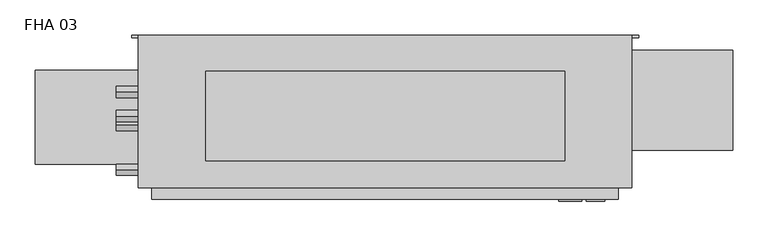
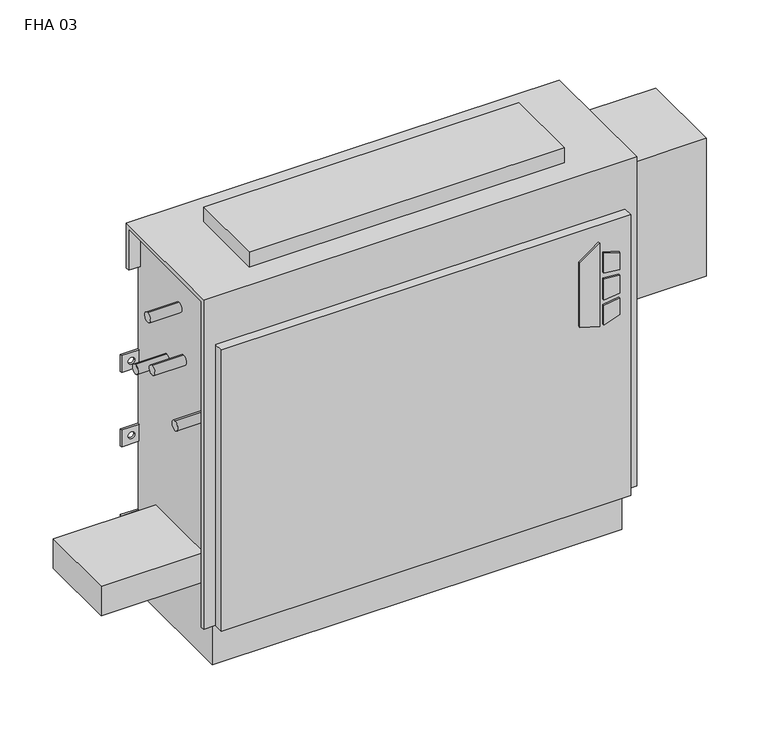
"""IFC4 building model written with IfcOpenShell, lengths in millimetres: proxy geometry, Vertical_Fan_Coil_Unit_-_FHA_-_IEC_-_4-Pipe_TS-FR_LH_2022 : FHA 03."""

from ifc_helpers import new_model, si_unit, point, frame, frame_2d, origin, place, context, project, spatial, polyline, circle_curve, trimmed, segment, composite_curve, outline, extrude, source, transform, mapped, element, save
from ifc_brep_helpers import plane_surface, revolved_surface, advanced_brep


def fha_03_e5284e9b(model_context):
    return source(origin(), model_context, "Body", "SolidModel", [
        extrude(outline(polyline([(391.6086829, 398.5368862), (381.6606126, 430.7102728), (523.831537, 430.7102728), (500.8095309, 398.5368862), (391.6086829, 398.5368862)])), frame((0.0, 9.525, 0.0), z_axis=(0.0, 1.0, 0.0), x_axis=(0.0, 0.0, 1.0)), (0.0, 0.0, 1.0), 3.175),
        extrude(outline(polyline([(470.6079683, 437.4686058), (467.4055757, 463.55), (496.6344168, 463.55), (504.6988318, 437.4686058), (470.6079683, 437.4686058)])), frame((0.0, 9.525, 0.0), z_axis=(0.0, 1.0, 0.0), x_axis=(0.0, 0.0, 1.0)), (0.0, 0.0, 1.0), 3.175),
        extrude(outline(polyline([(418.7444414, 463.55), (415.0789404, 437.4686058), (381.6606126, 437.4686058), (390.2948498, 463.55), (418.7444414, 463.55)])), frame((0.0, 9.525, 0.0), z_axis=(0.0, 1.0, 0.0), x_axis=(0.0, 0.0, 1.0)), (0.0, 0.0, 1.0), 3.175),
        extrude(outline(polyline([(458.0596028, 463.55), (460.3414292, 437.4686058), (424.4038806, 437.4686058), (427.1451456, 463.55), (458.0596028, 463.55)])), frame((0.0, 9.525, 0.0), z_axis=(0.0, 1.0, 0.0), x_axis=(0.0, 0.0, 1.0)), (0.0, 0.0, 1.0), 3.175),
        extrude(outline(composite_curve([segment(trimmed(circle_curve(frame_2d((-241.3, 128.5875)), 9.525), [point((-250.825, 128.5875))], [point((-231.775, 128.5875))], False, "CARTESIAN"), True, "CONTINUOUS"), segment(trimmed(circle_curve(frame_2d((-241.3, 128.5875)), 9.525), [point((-231.775, 128.5875))], [point((-250.825, 128.5875))], False, "CARTESIAN"), True, "CONTINUOUS")], self_intersect=False)), frame((0.0, 0.0, 101.6), z_axis=(0.0, 0.0, 1.0), x_axis=(1.0, 0.0, 0.0)), (0.0, 0.0, 1.0), 25.4),
        extrude(outline(polyline([(-342.9, 61.9125), (-342.9, 195.2625), (-177.8, 195.2625), (-177.8, 61.9125), (-342.9, 61.9125)])), frame((0.0, 0.0, 127.0), z_axis=(0.0, 0.0, 1.0), x_axis=(1.0, 0.0, 0.0)), (0.0, 0.0, 1.0), 50.8),
        extrude(outline(polyline([(406.4, 193.675), (406.4, 66.675), (-101.6, 66.675), (-101.6, 193.675), (406.4, 193.675)])), frame((0.0, 0.0, 635.0), z_axis=(0.0, 0.0, 1.0), x_axis=(1.0, 0.0, 0.0)), (0.0, 0.0, 1.0), 25.4),
        extrude(outline(composite_curve([segment(trimmed(circle_curve(frame_2d((117.475, 472.44)), 7.9375), [point((117.475, 480.3775))], [point((117.475, 464.5025))], False, "CARTESIAN"), True, "CONTINUOUS"), segment(trimmed(circle_curve(frame_2d((117.475, 472.44)), 7.9375), [point((117.475, 464.5025))], [point((117.475, 480.3775))], False, "CARTESIAN"), True, "CONTINUOUS")], self_intersect=False)), frame((-228.6, 0.0, 0.0), z_axis=(1.0, 0.0, 0.0), x_axis=(0.0, 1.0, 0.0)), (0.0, 0.0, 1.0), 50.8),
        extrude(outline(composite_curve([segment(trimmed(circle_curve(frame_2d((164.211, 445.897)), 7.9375), [point((164.211, 453.8345))], [point((164.211, 437.9595))], False, "CARTESIAN"), True, "CONTINUOUS"), segment(trimmed(circle_curve(frame_2d((164.211, 445.897)), 7.9375), [point((164.211, 437.9595))], [point((164.211, 453.8345))], False, "CARTESIAN"), True, "CONTINUOUS")], self_intersect=False)), frame((-228.6, 0.0, 0.0), z_axis=(1.0, 0.0, 0.0), x_axis=(0.0, 1.0, 0.0)), (0.0, 0.0, 1.0), 50.8),
        extrude(outline(composite_curve([segment(trimmed(circle_curve(frame_2d((130.175, 554.99)), 7.9502), [point((130.175, 562.9402))], [point((130.175, 547.0398))], False, "CARTESIAN"), True, "CONTINUOUS"), segment(trimmed(circle_curve(frame_2d((130.175, 554.99)), 7.9502), [point((130.175, 547.0398))], [point((130.175, 562.9402))], False, "CARTESIAN"), True, "CONTINUOUS")], self_intersect=False)), frame((-228.6, 0.0, 0.0), z_axis=(1.0, 0.0, 0.0), x_axis=(0.0, 1.0, 0.0)), (0.0, 0.0, 1.0), 50.8),
        extrude(outline(composite_curve([segment(trimmed(circle_curve(frame_2d((53.975, 416.56)), 7.9502), [point((53.975, 424.5102))], [point((53.975, 408.6098))], False, "CARTESIAN"), True, "CONTINUOUS"), segment(trimmed(circle_curve(frame_2d((53.975, 416.56)), 7.9502), [point((53.975, 408.6098))], [point((53.975, 424.5102))], False, "CARTESIAN"), True, "CONTINUOUS")], self_intersect=False)), frame((-228.6, 0.0, 0.0), z_axis=(1.0, 0.0, 0.0), x_axis=(0.0, 1.0, 0.0)), (0.0, 0.0, 1.0), 50.8),
        extrude(outline(polyline([(644.525, 223.266), (644.525, 81.534), (482.6, 81.534), (482.6, 223.266), (644.525, 223.266)])), frame((0.0, 0.0, 349.25), z_axis=(0.0, 0.0, 1.0), x_axis=(1.0, 0.0, 0.0)), (0.0, 0.0, 1.0), 234.95),
        advanced_brep(
        [(501.65, 244.475, 635.0), (-196.85, 244.475, 635.0), (-196.85, 28.575, 635.0), (501.65, 28.575, 635.0), (-177.8, 244.475, 0.0), (482.6, 244.475, 0.0), (482.6, 38.1, 0.0), (-177.8, 38.1, 0.0), (501.65, 244.475, 558.8), (482.6, 244.475, 558.8), (482.6, 244.475, 414.3375), (511.175, 244.475, 414.3375), (511.175, 244.475, 385.7625), (482.6, 244.475, 385.7625), (482.6, 244.475, 287.3375), (511.175, 244.475, 287.3375), (511.175, 244.475, 258.7625), (482.6, 244.475, 258.7625), (482.6, 244.475, 141.2875), (511.175, 244.475, 141.2875), (511.175, 244.475, 112.7125), (482.6, 244.475, 112.7125), (-177.8, 244.475, 112.7125), (-206.375, 244.475, 112.7125), (-206.375, 244.475, 141.2875), (-177.8, 244.475, 141.2875), (-177.8, 244.475, 258.7625), (-206.375, 244.475, 258.7625), (-206.375, 244.475, 287.3375), (-177.8, 244.475, 287.3375), (-177.8, 244.475, 385.7625), (-206.375, 244.475, 385.7625), (-206.375, 244.475, 414.3375), (-177.8, 244.475, 414.3375), (-177.8, 244.475, 558.8), (-196.85, 244.475, 558.8), (500.8626, 244.475, 127.0), (489.7374, 244.475, 127.0), (-184.9374, 244.475, 127.0), (-196.0626, 244.475, 127.0), (500.8626, 244.475, 273.05), (489.7374, 244.475, 273.05), (-184.9374, 244.475, 273.05), (-196.0626, 244.475, 273.05), (500.8626, 244.475, 400.05), (489.7374, 244.475, 400.05), (-184.9374, 244.475, 400.05), (-196.0626, 244.475, 400.05), (-196.85, 238.125, 558.8), (-196.85, 238.125, 628.65), (-196.85, 34.925, 628.65), (-196.85, 34.925, 73.025), (-196.85, 28.575, 73.025), (482.6, 12.7, 552.45), (-177.8, 12.7, 552.45), (-177.8, 12.7, 73.025), (482.6, 12.7, 73.025), (501.65, 28.575, 73.025), (501.65, 34.925, 73.025), (501.65, 34.925, 628.65), (501.65, 238.125, 628.65), (501.65, 238.125, 558.8), (-177.8, 28.575, 73.025), (-177.8, 28.575, 552.45), (482.6, 28.575, 552.45), (482.6, 28.575, 73.025), (-177.8, 34.925, 73.025), (-177.8, 38.1, 73.025), (482.6, 38.1, 73.025), (482.6, 34.925, 73.025), (482.6, 241.3, 112.7125), (482.6, 241.3, 141.2875), (482.6, 241.3, 258.7625), (482.6, 241.3, 287.3375), (482.6, 241.3, 385.7625), (482.6, 241.3, 414.3375), (482.6, 238.125, 558.8), (482.6, 238.125, 628.65), (482.6, 34.925, 628.65), (-177.8, 34.925, 628.65), (-177.8, 238.125, 628.65), (-177.8, 238.125, 558.8), (-177.8, 241.3, 414.3375), (-177.8, 241.3, 385.7625), (-177.8, 241.3, 287.3375), (-177.8, 241.3, 258.7625), (-177.8, 241.3, 141.2875), (-177.8, 241.3, 112.7125), (511.175, 241.3, 112.7125), (511.175, 241.3, 141.2875), (489.7374, 241.3, 127.0), (500.8626, 241.3, 127.0), (511.175, 241.3, 258.7625), (511.175, 241.3, 287.3375), (489.7374, 241.3, 273.05), (500.8626, 241.3, 273.05), (511.175, 241.3, 385.7625), (511.175, 241.3, 414.3375), (489.7374, 241.3, 400.05), (500.8626, 241.3, 400.05), (-206.375, 241.3, 141.2875), (-206.375, 241.3, 112.7125), (-196.0626, 241.3, 127.0), (-184.9374, 241.3, 127.0), (-206.375, 241.3, 287.3375), (-206.375, 241.3, 258.7625), (-196.0626, 241.3, 273.05), (-184.9374, 241.3, 273.05), (-206.375, 241.3, 414.3375), (-206.375, 241.3, 385.7625), (-196.0626, 241.3, 400.05), (-184.9374, 241.3, 400.05)],
        [
            (0, 1),
            (1, 2),
            (2, 3),
            (3, 0),
            (4, 5),
            (5, 6),
            (6, 7),
            (7, 4),
            (0, 8),
            (8, 9),
            (9, 10),
            (10, 11),
            (11, 12),
            (12, 13),
            (13, 14),
            (14, 15),
            (15, 16),
            (16, 17),
            (17, 18),
            (18, 19),
            (19, 20),
            (20, 21),
            (21, 5),
            (4, 22),
            (22, 23),
            (23, 24),
            (24, 25),
            (25, 26),
            (26, 27),
            (27, 28),
            (28, 29),
            (29, 30),
            (30, 31),
            (31, 32),
            (32, 33),
            (33, 34),
            (34, 35),
            (35, 1),
            (36, 37, circle_curve(frame((495.3, 244.475, 127.0), z_axis=(0.0, -1.0, 0.0), x_axis=(-1.0, 0.0, 0.0)), 5.5626)),
            (37, 36, circle_curve(frame((495.3, 244.475, 127.0), z_axis=(0.0, -1.0, 0.0), x_axis=(-1.0, 0.0, 0.0)), 5.5626)),
            (38, 39, circle_curve(frame((-190.5, 244.475, 127.0), z_axis=(0.0, -1.0, 0.0), x_axis=(-1.0, 0.0, 0.0)), 5.5626)),
            (39, 38, circle_curve(frame((-190.5, 244.475, 127.0), z_axis=(0.0, -1.0, 0.0), x_axis=(-1.0, 0.0, 0.0)), 5.5626)),
            (40, 41, circle_curve(frame((495.3, 244.475, 273.05), z_axis=(0.0, -1.0, 0.0), x_axis=(-1.0, 0.0, 0.0)), 5.5626)),
            (41, 40, circle_curve(frame((495.3, 244.475, 273.05), z_axis=(0.0, -1.0, 0.0), x_axis=(-1.0, 0.0, 0.0)), 5.5626)),
            (42, 43, circle_curve(frame((-190.5, 244.475, 273.05), z_axis=(0.0, -1.0, 0.0), x_axis=(-1.0, 0.0, 0.0)), 5.5626)),
            (43, 42, circle_curve(frame((-190.5, 244.475, 273.05), z_axis=(0.0, -1.0, 0.0), x_axis=(-1.0, 0.0, 0.0)), 5.5626)),
            (44, 45, circle_curve(frame((495.3, 244.475, 400.05), z_axis=(0.0, -1.0, 0.0), x_axis=(-1.0, 0.0, 0.0)), 5.5626)),
            (45, 44, circle_curve(frame((495.3, 244.475, 400.05), z_axis=(0.0, -1.0, 0.0), x_axis=(-1.0, 0.0, 0.0)), 5.5626)),
            (46, 47, circle_curve(frame((-190.5, 244.475, 400.05), z_axis=(0.0, -1.0, 0.0), x_axis=(-1.0, 0.0, 0.0)), 5.5626)),
            (47, 46, circle_curve(frame((-190.5, 244.475, 400.05), z_axis=(0.0, -1.0, 0.0), x_axis=(-1.0, 0.0, 0.0)), 5.5626)),
            (35, 48),
            (48, 49),
            (49, 50),
            (50, 51),
            (51, 52),
            (52, 2),
            (53, 54),
            (54, 55),
            (55, 56),
            (56, 53),
            (3, 57),
            (57, 58),
            (58, 59),
            (59, 60),
            (60, 61),
            (61, 8),
            (52, 62),
            (62, 63),
            (63, 64),
            (64, 65),
            (65, 57),
            (53, 64),
            (63, 54),
            (55, 62),
            (51, 66),
            (66, 67),
            (67, 68),
            (68, 69),
            (69, 58),
            (65, 56),
            (6, 68),
            (67, 7),
            (21, 70),
            (70, 71),
            (71, 18),
            (17, 72),
            (72, 73),
            (73, 14),
            (13, 74),
            (74, 75),
            (75, 10),
            (9, 76),
            (76, 77),
            (77, 78),
            (78, 69),
            (66, 79),
            (79, 80),
            (80, 81),
            (81, 34),
            (33, 82),
            (82, 83),
            (83, 30),
            (29, 84),
            (84, 85),
            (85, 26),
            (25, 86),
            (86, 87),
            (87, 22),
            (76, 61),
            (60, 77),
            (78, 59),
            (50, 79),
            (81, 48),
            (80, 49),
            (70, 88),
            (88, 89),
            (89, 71),
            (90, 91, circle_curve(frame((495.3, 241.3, 127.0), z_axis=(0.0, 1.0, 0.0), x_axis=(-1.0, 0.0, 0.0)), 5.5626)),
            (91, 90, circle_curve(frame((495.3, 241.3, 127.0), z_axis=(0.0, 1.0, 0.0), x_axis=(-1.0, 0.0, 0.0)), 5.5626)),
            (92, 93),
            (93, 73),
            (72, 92),
            (94, 95, circle_curve(frame((495.3, 241.3, 273.05), z_axis=(0.0, 1.0, 0.0), x_axis=(-1.0, 0.0, 0.0)), 5.5626)),
            (95, 94, circle_curve(frame((495.3, 241.3, 273.05), z_axis=(0.0, 1.0, 0.0), x_axis=(-1.0, 0.0, 0.0)), 5.5626)),
            (96, 97),
            (97, 75),
            (74, 96),
            (98, 99, circle_curve(frame((495.3, 241.3, 400.05), z_axis=(0.0, 1.0, 0.0), x_axis=(-1.0, 0.0, 0.0)), 5.5626)),
            (99, 98, circle_curve(frame((495.3, 241.3, 400.05), z_axis=(0.0, 1.0, 0.0), x_axis=(-1.0, 0.0, 0.0)), 5.5626)),
            (100, 101),
            (101, 87),
            (86, 100),
            (102, 103, circle_curve(frame((-190.5, 241.3, 127.0), z_axis=(0.0, 1.0, 0.0), x_axis=(-1.0, 0.0, 0.0)), 5.5626)),
            (103, 102, circle_curve(frame((-190.5, 241.3, 127.0), z_axis=(0.0, 1.0, 0.0), x_axis=(-1.0, 0.0, 0.0)), 5.5626)),
            (84, 104),
            (104, 105),
            (105, 85),
            (106, 107, circle_curve(frame((-190.5, 241.3, 273.05), z_axis=(0.0, 1.0, 0.0), x_axis=(-1.0, 0.0, 0.0)), 5.5626)),
            (107, 106, circle_curve(frame((-190.5, 241.3, 273.05), z_axis=(0.0, 1.0, 0.0), x_axis=(-1.0, 0.0, 0.0)), 5.5626)),
            (108, 109),
            (109, 83),
            (82, 108),
            (110, 111, circle_curve(frame((-190.5, 241.3, 400.05), z_axis=(0.0, 1.0, 0.0), x_axis=(-1.0, 0.0, 0.0)), 5.5626)),
            (111, 110, circle_curve(frame((-190.5, 241.3, 400.05), z_axis=(0.0, 1.0, 0.0), x_axis=(-1.0, 0.0, 0.0)), 5.5626)),
            (89, 19),
            (88, 20),
            (16, 92),
            (93, 15),
            (12, 96),
            (97, 11),
            (24, 100),
            (101, 23),
            (105, 27),
            (104, 28),
            (32, 108),
            (109, 31),
            (90, 37),
            (36, 91),
            (102, 39),
            (38, 103),
            (94, 41),
            (40, 95),
            (106, 43),
            (42, 107),
            (98, 45),
            (44, 99),
            (110, 47),
            (46, 111),
        ],
        [
            plane_surface(frame((-196.85, 244.475, 635.0), z_axis=(0.0, 0.0, 1.0), x_axis=(-1.0, 0.0, 0.0))),
            plane_surface(frame((-196.85, 244.475, 0.0), z_axis=(0.0, 0.0, -1.0), x_axis=(1.0, 0.0, 0.0))),
            plane_surface(frame((501.65, 244.475, 635.0), z_axis=(0.0, 1.0, 0.0), x_axis=(0.0, 0.0, -1.0))),
            plane_surface(frame((-196.85, 244.475, 635.0), z_axis=(-1.0, 0.0, 0.0), x_axis=(0.0, 0.0, -1.0))),
            plane_surface(frame((-196.85, 12.7, 635.0), z_axis=(0.0, -1.0, 0.0), x_axis=(0.0, 0.0, -1.0))),
            plane_surface(frame((501.65, 12.7, 635.0), z_axis=(1.0, 0.0, 0.0), x_axis=(0.0, 0.0, -1.0))),
            plane_surface(frame((-247.65, 28.575, 635.0), z_axis=(0.0, -1.0, 0.0), x_axis=(1.0, 0.0, 0.0))),
            plane_surface(frame((-247.65, 28.575, 552.45), z_axis=(0.0, 0.0, 1.0), x_axis=(1.0, 0.0, 0.0))),
            plane_surface(frame((-196.85, 12.7, 73.025), z_axis=(0.0, 0.0, -1.0), x_axis=(1.0, 0.0, 0.0))),
            plane_surface(frame((-196.85, 38.1, 73.025), z_axis=(0.0, -1.0, 0.0), x_axis=(1.0, 0.0, 0.0))),
            plane_surface(frame((482.6, 28.575, 73.025), z_axis=(1.0, 0.0, 0.0), x_axis=(0.0, -1.0, 0.0))),
            plane_surface(frame((-177.8, 28.575, 552.45), z_axis=(-1.0, 0.0, 0.0), x_axis=(0.0, -1.0, 0.0))),
            plane_surface(frame((482.6, 244.475, 0.0), z_axis=(1.0, 0.0, 0.0), x_axis=(0.0, -1.0, 0.0))),
            plane_surface(frame((-177.8, 244.475, 73.025), z_axis=(-1.0, 0.0, 0.0), x_axis=(0.0, -1.0, 0.0))),
            plane_surface(frame((482.6, 238.125, 628.65), z_axis=(0.0, -1.0, 0.0), x_axis=(1.0, 0.0, 0.0))),
            plane_surface(frame((482.6, 238.125, 558.8), z_axis=(0.0, 0.0, -1.0), x_axis=(1.0, 0.0, 0.0))),
            plane_surface(frame((482.6, 34.925, 73.025), z_axis=(0.0, 1.0, 0.0), x_axis=(1.0, 0.0, 0.0))),
            plane_surface(frame((482.6, 34.925, 628.65), z_axis=(0.0, 0.0, -1.0), x_axis=(1.0, 0.0, 0.0))),
            plane_surface(frame((-177.8, 34.925, 628.65), z_axis=(0.0, 1.0, 0.0), x_axis=(-1.0, 0.0, 0.0))),
            plane_surface(frame((-177.8, 244.475, 558.8), z_axis=(0.0, 0.0, -1.0), x_axis=(-1.0, 0.0, 0.0))),
            plane_surface(frame((-177.8, 238.125, 558.8), z_axis=(0.0, -1.0, 0.0), x_axis=(-1.0, 0.0, 0.0))),
            plane_surface(frame((-177.8, 238.125, 628.65), z_axis=(0.0, 0.0, -1.0), x_axis=(-1.0, 0.0, 0.0))),
            plane_surface(frame((511.175, 241.3, 141.2875), z_axis=(0.0, -1.0, 0.0), x_axis=(-1.0, 0.0, 0.0))),
            plane_surface(frame((482.6, 244.475, 141.2875), z_axis=(0.0, 0.0, 1.0), x_axis=(0.0, -1.0, 0.0))),
            plane_surface(frame((511.175, 244.475, 141.2875), z_axis=(1.0, 0.0, 0.0), x_axis=(0.0, -1.0, 0.0))),
            plane_surface(frame((511.175, 244.475, 112.7125), z_axis=(0.0, 0.0, -1.0), x_axis=(0.0, -1.0, 0.0))),
            plane_surface(frame((511.175, 244.475, 258.7625), z_axis=(0.0, 0.0, -1.0), x_axis=(0.0, -1.0, 0.0))),
            plane_surface(frame((482.6, 244.475, 287.3375), z_axis=(0.0, 0.0, 1.0), x_axis=(0.0, -1.0, 0.0))),
            plane_surface(frame((511.175, 244.475, 287.3375), z_axis=(1.0, 0.0, 0.0), x_axis=(0.0, -1.0, 0.0))),
            plane_surface(frame((511.175, 244.475, 385.7625), z_axis=(0.0, 0.0, -1.0), x_axis=(0.0, -1.0, 0.0))),
            plane_surface(frame((482.6, 244.475, 414.3375), z_axis=(0.0, 0.0, 1.0), x_axis=(0.0, -1.0, 0.0))),
            plane_surface(frame((511.175, 244.475, 414.3375), z_axis=(1.0, 0.0, 0.0), x_axis=(0.0, -1.0, 0.0))),
            plane_surface(frame((-206.375, 244.475, 141.2875), z_axis=(0.0, 0.0, 1.0), x_axis=(0.0, -1.0, 0.0))),
            plane_surface(frame((-177.8, 244.475, 112.7125), z_axis=(0.0, 0.0, -1.0), x_axis=(0.0, -1.0, 0.0))),
            plane_surface(frame((-206.375, 244.475, 112.7125), z_axis=(-1.0, 0.0, 0.0), x_axis=(0.0, -1.0, 0.0))),
            plane_surface(frame((-177.8, 244.475, 258.7625), z_axis=(0.0, 0.0, -1.0), x_axis=(0.0, -1.0, 0.0))),
            plane_surface(frame((-206.375, 244.475, 258.7625), z_axis=(-1.0, 0.0, 0.0), x_axis=(0.0, -1.0, 0.0))),
            plane_surface(frame((-206.375, 244.475, 287.3375), z_axis=(0.0, 0.0, 1.0), x_axis=(0.0, -1.0, 0.0))),
            plane_surface(frame((-206.375, 244.475, 414.3375), z_axis=(0.0, 0.0, 1.0), x_axis=(0.0, -1.0, 0.0))),
            plane_surface(frame((-177.8, 244.475, 385.7625), z_axis=(0.0, 0.0, -1.0), x_axis=(0.0, -1.0, 0.0))),
            plane_surface(frame((-206.375, 244.475, 385.7625), z_axis=(-1.0, 0.0, 0.0), x_axis=(0.0, -1.0, 0.0))),
            revolved_surface(polyline([(489.73740000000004, 241.3, 127.0), (489.73740000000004, 244.475, 127.0)]), (495.3, 244.475, 127.0), (0.0, -1.0, 0.0)),
            revolved_surface(polyline([(-196.0626, 241.3, 127.0), (-196.0626, 244.475, 127.0)]), (-190.5, 244.475, 127.0), (0.0, -1.0, 0.0)),
            revolved_surface(polyline([(489.73740000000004, 241.3, 273.05), (489.73740000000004, 244.475, 273.05)]), (495.3, 244.475, 273.05), (0.0, -1.0, 0.0)),
            revolved_surface(polyline([(-196.0626, 241.3, 273.05), (-196.0626, 244.475, 273.05)]), (-190.5, 244.475, 273.05), (0.0, -1.0, 0.0)),
            revolved_surface(polyline([(489.73740000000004, 241.3, 400.05), (489.73740000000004, 244.475, 400.05)]), (495.3, 244.475, 400.05), (0.0, -1.0, 0.0)),
            revolved_surface(polyline([(-196.0626, 241.3, 400.05), (-196.0626, 244.475, 400.05)]), (-190.5, 244.475, 400.05), (0.0, -1.0, 0.0)),
        ],
        [
            (0, [[1, 2, 3, 4]]),
            (1, [[5, 6, 7, 8]]),
            (2, [[-1, 9, 10, 11, 12, 13, 14, 15, 16, 17, 18, 19, 20, 21, 22, 23, -5, 24, 25, 26, 27, 28, 29, 30, 31, 32, 33, 34, 35, 36, 37, 38], [39, 40], [41, 42], [43, 44], [45, 46], [47, 48], [49, 50]]),
            (3, [[-2, -38, 51, 52, 53, 54, 55, 56]]),
            (4, [[57, 58, 59, 60]]),
            (5, [[-4, 61, 62, 63, 64, 65, 66, -9]]),
            (6, [[-3, -56, 67, 68, 69, 70, 71, -61]]),
            (7, [[-57, 72, -69, 73]]),
            (8, [[-59, 74, -67, -55, 75, 76, 77, 78, 79, -62, -71, 80]]),
            (9, [[-7, 81, -77, 82]]),
            (10, [[-70, -72, -60, -80]]),
            (11, [[-68, -74, -58, -73]]),
            (12, [[-6, -23, 83, 84, 85, -19, 86, 87, 88, -15, 89, 90, 91, -11, 92, 93, 94, 95, -78, -81]]),
            (13, [[-8, -82, -76, 96, 97, 98, 99, -36, 100, 101, 102, -32, 103, 104, 105, -28, 106, 107, 108, -24]]),
            (14, [[-93, 109, -65, 110]]),
            (15, [[-92, -10, -66, -109]]),
            (16, [[-95, 111, -63, -79]]),
            (17, [[-94, -110, -64, -111]]),
            (18, [[-96, -75, -54, 112]]),
            (19, [[-99, 113, -51, -37]]),
            (20, [[-98, 114, -52, -113]]),
            (21, [[-97, -112, -53, -114]]),
            (22, [[115, 116, 117, -84], [118, 119]]),
            (22, [[120, 121, -87, 122], [123, 124]]),
            (22, [[125, 126, -90, 127], [128, 129]]),
            (22, [[130, 131, -107, 132], [133, 134]]),
            (22, [[135, 136, 137, -104], [138, 139]]),
            (22, [[140, 141, -101, 142], [143, 144]]),
            (23, [[-117, 145, -20, -85]]),
            (24, [[-116, 146, -21, -145]]),
            (25, [[-115, -83, -22, -146]]),
            (26, [[-122, -86, -18, 147]]),
            (27, [[-121, 148, -16, -88]]),
            (28, [[-120, -147, -17, -148]]),
            (29, [[-127, -89, -14, 149]]),
            (30, [[-126, 150, -12, -91]]),
            (31, [[-125, -149, -13, -150]]),
            (32, [[-132, -106, -27, 151]]),
            (33, [[-131, 152, -25, -108]]),
            (34, [[-130, -151, -26, -152]]),
            (35, [[-137, 153, -29, -105]]),
            (36, [[-136, 154, -30, -153]]),
            (37, [[-135, -103, -31, -154]]),
            (38, [[-142, -100, -35, 155]]),
            (39, [[-141, 156, -33, -102]]),
            (40, [[-140, -155, -34, -156]]),
            (41, [[157, -39, 158, -118]]),
            (41, [[-157, -119, -158, -40]]),
            (42, [[159, -41, 160, -133]]),
            (42, [[-159, -134, -160, -42]]),
            (43, [[161, -43, 162, -123]]),
            (43, [[-161, -124, -162, -44]]),
            (44, [[163, -45, 164, -138]]),
            (44, [[-163, -139, -164, -46]]),
            (45, [[165, -47, 166, -128]]),
            (45, [[-165, -129, -166, -48]]),
            (46, [[167, -49, 168, -143]]),
            (46, [[-167, -144, -168, -50]]),
        ],
    ),
    ])


if __name__ == "__main__":
    model = new_model("IFC4")
    model_context = context("Model", 3, world=origin())
    ifc_project = project(units=[si_unit("LENGTHUNIT", "METRE", prefix="MILLI")], contexts=[model_context])
    site = spatial("IfcSite", under=ifc_project)
    building = spatial("IfcBuilding", under=site)
    placement = place(None, origin())
    fha_03_shape = fha_03_e5284e9b(model_context)
    element("IfcBuildingElementProxy", 1, Name="Vertical_Fan_Coil_Unit_-_FHA_-_IEC_-_4-Pipe_TS-FR_LH_2022 : FHA 03", ObjectType="Vertical_Fan_Coil_Unit_-_FHA_-_IEC_-_4-Pipe_TS-FR_LH_2022 : FHA 03", at=placement, inside=building, context=model_context, shape_type="MappedRepresentation", body=[
        mapped(fha_03_shape, transform((0.0, 0.0, 0.0), x_axis=(1.0, 0.0, 0.0), y_axis=(0.0, 1.0, 0.0), z_axis=(0.0, 0.0, 1.0))),
    ])
    save(model, "model.ifc")
